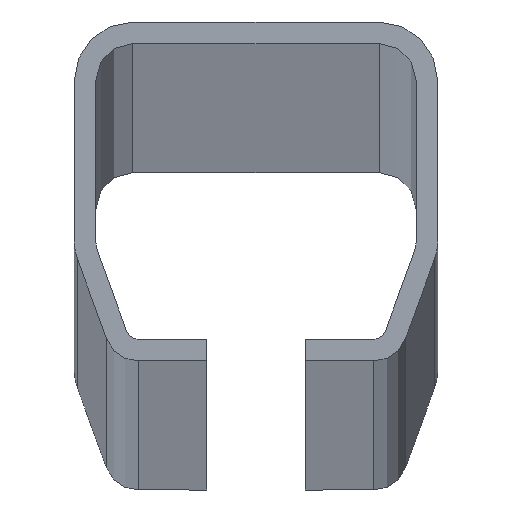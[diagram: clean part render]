
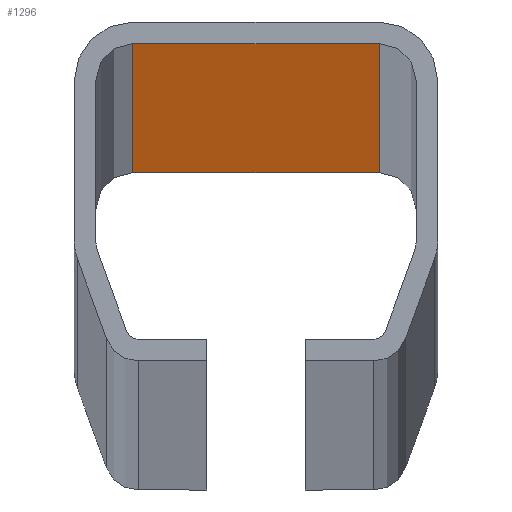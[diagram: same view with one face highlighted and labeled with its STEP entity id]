
A CAD part, top view. The second image highlights one B-rep face of the part: STEP entity #1296.
In plain terms, the highlighted planar face has unit normal (0, -1, 0).
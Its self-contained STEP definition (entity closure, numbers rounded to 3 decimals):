
#118=FACE_OUTER_BOUND('',#196,.T.);
#196=EDGE_LOOP('',(#1087,#1088,#1089,#1090));
#342=LINE('',#2083,#498);
#343=LINE('',#2087,#499);
#344=LINE('',#2089,#500);
#345=LINE('',#2090,#501);
#498=VECTOR('',#1710,10.);
#499=VECTOR('',#1715,10.);
#500=VECTOR('',#1716,10.);
#501=VECTOR('',#1717,10.);
#621=VERTEX_POINT('',#2080);
#622=VERTEX_POINT('',#2082);
#623=VERTEX_POINT('',#2086);
#624=VERTEX_POINT('',#2088);
#791=EDGE_CURVE('',#622,#621,#342,.T.);
#793=EDGE_CURVE('',#621,#623,#343,.T.);
#794=EDGE_CURVE('',#624,#623,#344,.T.);
#795=EDGE_CURVE('',#622,#624,#345,.T.);
#1087=ORIENTED_EDGE('',*,*,#793,.T.);
#1088=ORIENTED_EDGE('',*,*,#794,.F.);
#1089=ORIENTED_EDGE('',*,*,#795,.F.);
#1090=ORIENTED_EDGE('',*,*,#791,.T.);
#1229=PLANE('',#1404);
#1296=ADVANCED_FACE('',(#118),#1229,.T.);
#1404=AXIS2_PLACEMENT_3D('',#2085,#1713,#1714);
#1710=DIRECTION('',(0.,0.,1.));
#1713=DIRECTION('center_axis',(0.,-1.,0.));
#1714=DIRECTION('ref_axis',(0.,0.,-1.));
#1715=DIRECTION('',(-1.,0.,0.));
#1716=DIRECTION('',(0.,0.,1.));
#1717=DIRECTION('',(-1.,0.,0.));
#2080=CARTESIAN_POINT('',(10.,24.,6000.));
#2082=CARTESIAN_POINT('',(10.,24.,0.));
#2083=CARTESIAN_POINT('',(10.,24.,0.));
#2085=CARTESIAN_POINT('Origin',(10.,24.,0.));
#2086=CARTESIAN_POINT('',(-10.,24.,6000.));
#2087=CARTESIAN_POINT('',(10.,24.,6000.));
#2088=CARTESIAN_POINT('',(-10.,24.,0.));
#2089=CARTESIAN_POINT('',(-10.,24.,0.));
#2090=CARTESIAN_POINT('',(10.,24.,0.));
